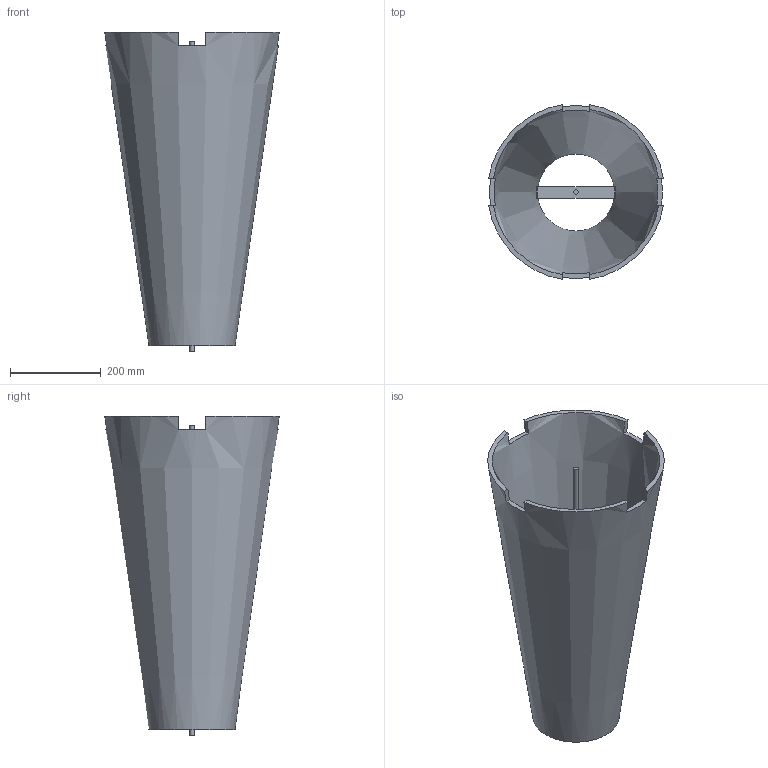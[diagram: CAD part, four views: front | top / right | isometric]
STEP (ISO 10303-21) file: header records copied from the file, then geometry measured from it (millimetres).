
FILE_DESCRIPTION( ( 'STEP AP214' ), '1' );
FILE_NAME( 'D:/Yug/2021/Delta/desk_and_office_organisation/QC/45838.stp', '2021-01-21T10:13:09', ( '' ), ( '' ), ' ', 'PARTsolutions', ' ' );
FILE_SCHEMA( ( 'AUTOMOTIVE_DESIGN { 1 0 10303 214 1 1 1 1 }' ) );
Length unit declared in the file: millimetre
Products named in the file (4): 45838; _45838_3; _45838_1; _45838_2
Assembly tree (3 placements, depth 2):
  45838
    _45838_3
    _45838_1
    _45838_2
Bounding box: 385.36 x 385.36 x 706 mm (x, y, z)
Volume: 6085387 mm3; surface area: 1270142.8 mm2
Topology: 3 solids, 3 shells, 32 faces, 81 edges, 54 vertices
Faces by surface type: plane 29, cone 2, cylinder 1
Full cylindrical faces by diameter (mm): 10 x1
Entity records: 1278 total; most frequent: CARTESIAN_POINT 212, DIRECTION 152, ORIENTED_EDGE 152, EDGE_CURVE 76, AXIS2_PLACEMENT_3D 56, VERTEX_POINT 52, LINE 40, VECTOR 40
